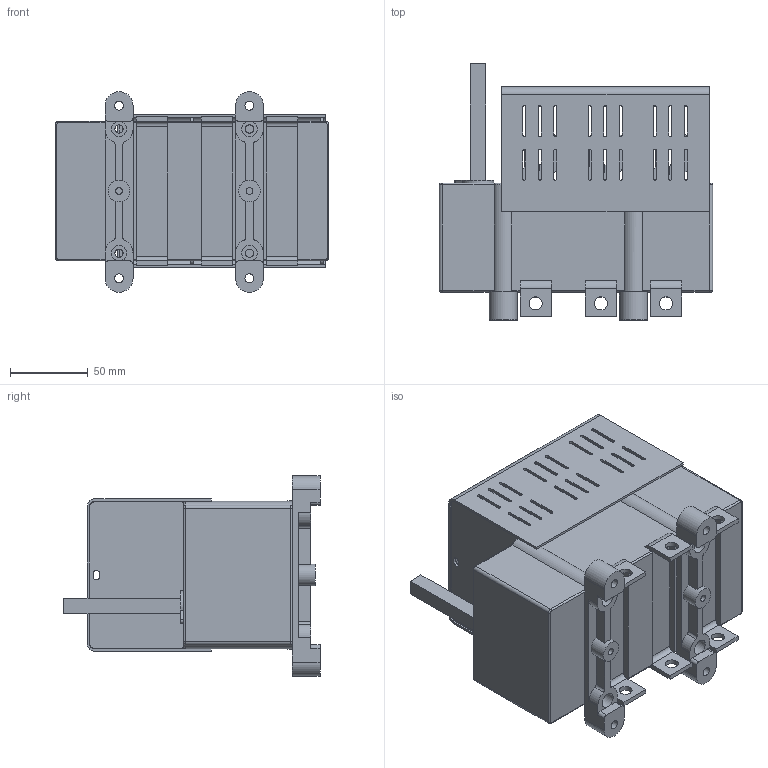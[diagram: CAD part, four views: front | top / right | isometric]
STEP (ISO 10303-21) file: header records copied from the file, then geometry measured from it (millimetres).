
FILE_DESCRIPTION(/* description */ (''),/* implementation_level */ '2;1');
FILE_NAME(/* name */ 'RAB 00 P3 C.stp',/* time_stamp */ '2021-08-19T11:45:45+02:00',/* author */ (''),/* organization */ (''),/* preprocessor_version */ 'ST-DEVELOPER v18.1',/* originating_system */ 'SIEMENS PLM Software NX 1965',/* authorisation */ '');
FILE_SCHEMA (('AUTOMOTIVE_DESIGN { 1 0 10303 214 3 1 1 1 }'));
Length unit declared in the file: millimetre
Products named in the file (1): RAB 00 P3 C_stp
Bounding box: 176 x 165 x 129.18 mm (x, y, z)
Volume: 1237454.3 mm3; surface area: 221925.1 mm2
Topology: 1 solids, 1 shells, 858 faces, 2438 edges, 1590 vertices
Faces by surface type: plane 536, cylinder 310, torus 7, bspline 5
Full cylindrical faces by diameter (mm): 2.7 x4, 4.3 x2, 5 x6, 5.3 x4, 5.8 x4, 8.5 x6, 10 x8, 14 x2
Entity records: 27869 total; most frequent: CARTESIAN_POINT 4995, ORIENTED_EDGE 4764, DIRECTION 4710, EDGE_CURVE 2382, LINE 1712, VECTOR 1712, VERTEX_POINT 1570, AXIS2_PLACEMENT_3D 1499
